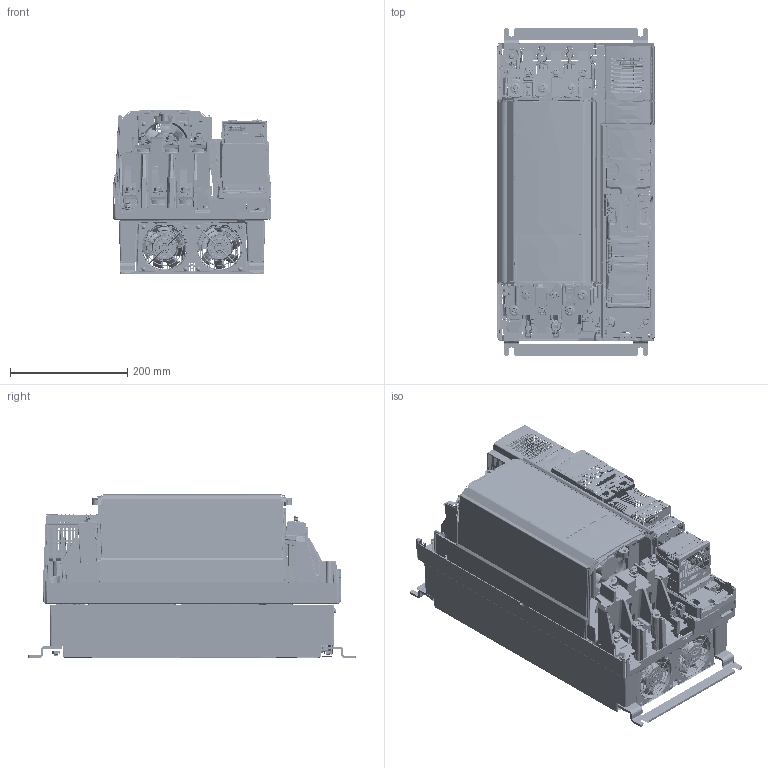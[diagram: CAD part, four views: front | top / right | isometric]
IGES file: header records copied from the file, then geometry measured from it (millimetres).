
Start section:  PTC IGES file: internal_gt8-f09.igs
Global section: file name: internal_gt8-f09.igs; native system: Pro/ENGINEER by Parametric Technology Corporation; preprocessor: 2011490; author: P94061; organization: Unknown; date: 20130829.140805; units: millimetre
Bounding box: 270.01 x 557 x 280 mm (x, y, z)
Surface area: 1711254.5 mm2 (no closed solid volume)
Topology: 0 solids, 1381 shells, 5032 faces, 38674 edges, 34802 vertices
Faces by surface type: bspline 5032
